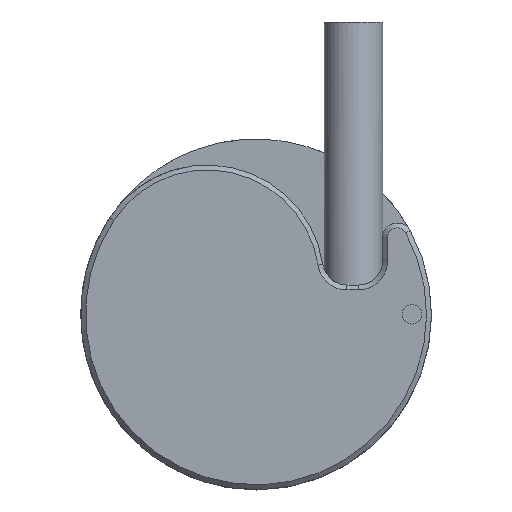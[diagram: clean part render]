
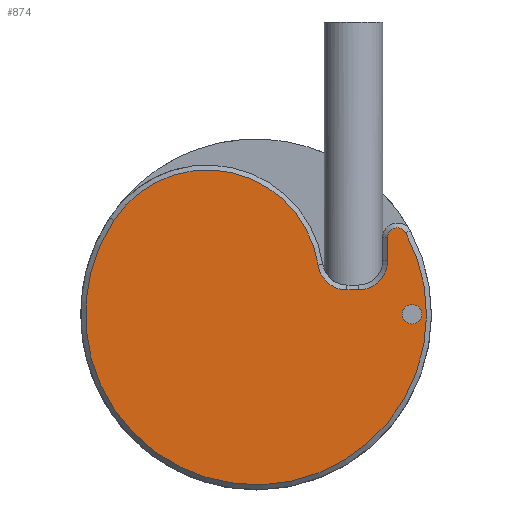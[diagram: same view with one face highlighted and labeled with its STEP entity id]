
A CAD part, top view. The second image highlights one B-rep face of the part: STEP entity #874.
In plain terms, the highlighted planar face has unit normal (0, 0, 1).
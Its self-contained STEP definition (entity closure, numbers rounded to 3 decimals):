
#490=CARTESIAN_POINT('',(17.0,0.,20.0));
#491=VERTEX_POINT('',#490);
#492=CARTESIAN_POINT('',(16.0,0.,20.0));
#493=DIRECTION('',(0.0,0.0,-1.0));
#494=DIRECTION('',(1.0,0.0,0.0));
#495=AXIS2_PLACEMENT_3D('',#492,#493,#494);
#496=CIRCLE('',#495,1.0);
#497=EDGE_CURVE('',#491,#491,#496,.T.);
#529=CARTESIAN_POINT('',(15.379,8.351,20.0));
#530=VERTEX_POINT('',#529);
#537=CARTESIAN_POINT('',(-14.583,9.673,20.0));
#538=VERTEX_POINT('',#537);
#539=CARTESIAN_POINT('',(0.0,0.0,20.0));
#540=DIRECTION('',(0.0,0.0,-1.0));
#541=DIRECTION('',(-1.0,0.0,0.0));
#542=AXIS2_PLACEMENT_3D('',#539,#540,#541);
#543=CIRCLE('',#542,17.5);
#544=EDGE_CURVE('',#530,#538,#543,.T.);
#569=CARTESIAN_POINT('',(13.5,7.874,20.0));
#570=VERTEX_POINT('',#569);
#577=CARTESIAN_POINT('',(14.5,7.874,20.0));
#578=DIRECTION('',(0.0,0.0,-1.));
#579=DIRECTION('',(0.879,0.477,0.0));
#580=AXIS2_PLACEMENT_3D('',#577,#578,#579);
#581=CIRCLE('',#580,1.);
#582=EDGE_CURVE('',#570,#530,#581,.T.);
#600=CARTESIAN_POINT('',(6.369,5.048,20.0));
#601=VERTEX_POINT('',#600);
#618=CARTESIAN_POINT('',(-5.,3.317,20.0));
#619=DIRECTION('',(0.0,0.0,-1.0));
#620=DIRECTION('',(1.0,0.0,0.0));
#621=AXIS2_PLACEMENT_3D('',#618,#619,#620);
#622=CIRCLE('',#621,11.5);
#623=EDGE_CURVE('',#538,#601,#622,.T.);
#633=CARTESIAN_POINT('',(13.5,5.5,20.0));
#634=VERTEX_POINT('',#633);
#641=CARTESIAN_POINT('',(13.5,5.5,20.0));
#642=DIRECTION('',(0.0,1.0,0.0));
#643=VECTOR('',#642,2.374);
#644=LINE('',#641,#643);
#645=EDGE_CURVE('',#634,#570,#644,.T.);
#657=CARTESIAN_POINT('',(9.335,2.5,20.0));
#658=VERTEX_POINT('',#657);
#673=CARTESIAN_POINT('',(9.335,5.5,20.0));
#674=DIRECTION('',(0.0,0.0,1.0));
#675=DIRECTION('',(0.0,-1.0,0.0));
#676=AXIS2_PLACEMENT_3D('',#673,#674,#675);
#677=CIRCLE('',#676,3.0);
#678=EDGE_CURVE('',#601,#658,#677,.T.);
#688=CARTESIAN_POINT('',(10.5,2.5,20.0));
#689=VERTEX_POINT('',#688);
#696=CARTESIAN_POINT('',(10.5,5.5,20.0));
#697=DIRECTION('',(0.0,0.0,1.0));
#698=DIRECTION('',(0.707,-0.707,0.0));
#699=AXIS2_PLACEMENT_3D('',#696,#697,#698);
#700=CIRCLE('',#699,3.);
#701=EDGE_CURVE('',#689,#634,#700,.T.);
#716=CARTESIAN_POINT('',(9.335,2.5,20.0));
#717=DIRECTION('',(1.0,0.0,0.0));
#718=VECTOR('',#717,1.165);
#719=LINE('',#716,#718);
#720=EDGE_CURVE('',#658,#689,#719,.T.);
#857=CARTESIAN_POINT('',(0.692,-0.019,20.0));
#858=DIRECTION('',(0.0,0.0,1.0));
#859=DIRECTION('',(1.0,0.0,0.0));
#860=AXIS2_PLACEMENT_3D('',#857,#858,#859);
#861=PLANE('',#860);
#862=ORIENTED_EDGE('',*,*,#544,.F.);
#863=ORIENTED_EDGE('',*,*,#582,.F.);
#864=ORIENTED_EDGE('',*,*,#645,.F.);
#865=ORIENTED_EDGE('',*,*,#701,.F.);
#866=ORIENTED_EDGE('',*,*,#720,.F.);
#867=ORIENTED_EDGE('',*,*,#678,.F.);
#868=ORIENTED_EDGE('',*,*,#623,.F.);
#869=EDGE_LOOP('',(#862,#863,#864,#865,#866,#867,#868));
#870=FACE_OUTER_BOUND('',#869,.T.);
#871=ORIENTED_EDGE('',*,*,#497,.T.);
#872=EDGE_LOOP('',(#871));
#873=FACE_BOUND('',#872,.T.);
#874=ADVANCED_FACE('',(#870,#873),#861,.T.);
